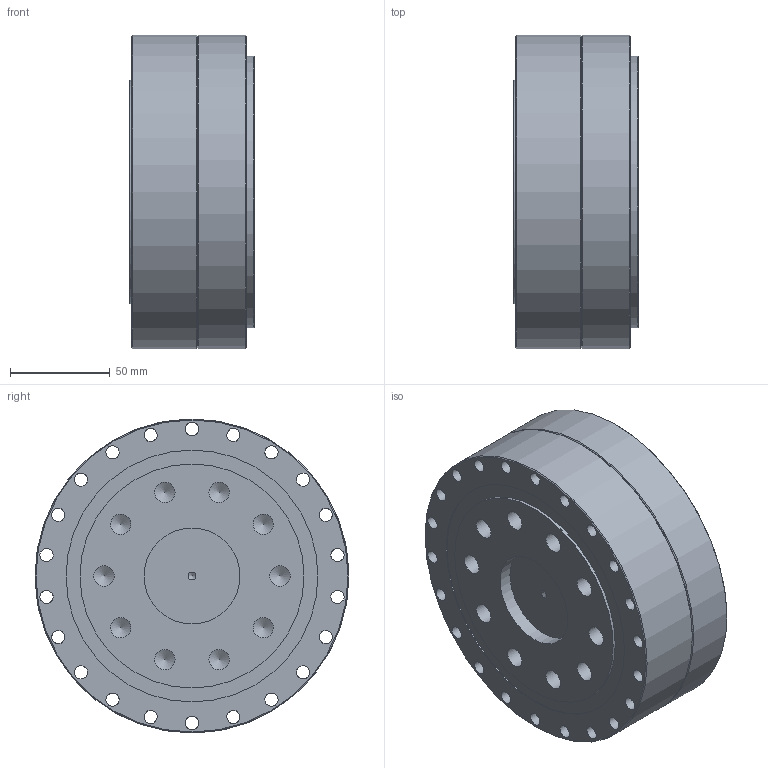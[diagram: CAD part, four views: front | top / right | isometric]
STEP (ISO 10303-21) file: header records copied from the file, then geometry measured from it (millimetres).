
FILE_DESCRIPTION (( 'STEP AP203' ), '1' );
FILE_NAME ('FCD-50-XXX-AJ.STEP', '2025-03-18T10:54:58', ( '微软用户' ), ( '微软中国' ), 'SwSTEP 2.0', 'SolidWorks 2016', '' );
FILE_SCHEMA (( 'CONFIG_CONTROL_DESIGN' ));
Length unit declared in the file: millimetre
Products named in the file (1): FCD-50-XXX-AJ
Bounding box: 62.5 x 157 x 157 mm (x, y, z)
Volume: 801287.5 mm3; surface area: 293357.2 mm2
Topology: 43 solids, 43 shells, 474 faces, 1128 edges, 735 vertices
Faces by surface type: plane 187, cylinder 179, cone 49, torus 36, sphere 23
Full cylindrical faces by diameter (mm): 3 x4, 3.4 x4, 5 x4, 5.5 x4, 6 x4, 6.6 x44, 8 x6, 8.5 x6, 9 x1, 10.2 x10, 13 x6, 42 x1, 44 x2, 48 x1, 50 x1, 74 x1, 87.9 x1, 88.9 x2, 91.4 x1, 95.25 x2, 100 x1, 104 x1, 109.843 x1, 112 x4, 116.59 x2, 117.5 x3, 120.5 x3, 122.707 x1, 122.708 x1, 123.908 x1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
Entity records: 11951 total; most frequent: DIRECTION 2248, CARTESIAN_POINT 1893, ORIENTED_EDGE 1570, AXIS2_PLACEMENT_3D 988, EDGE_LOOP 832, EDGE_CURVE 785, VERTEX_POINT 633, FACE_OUTER_BOUND 618
